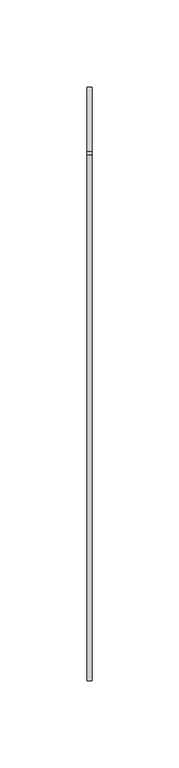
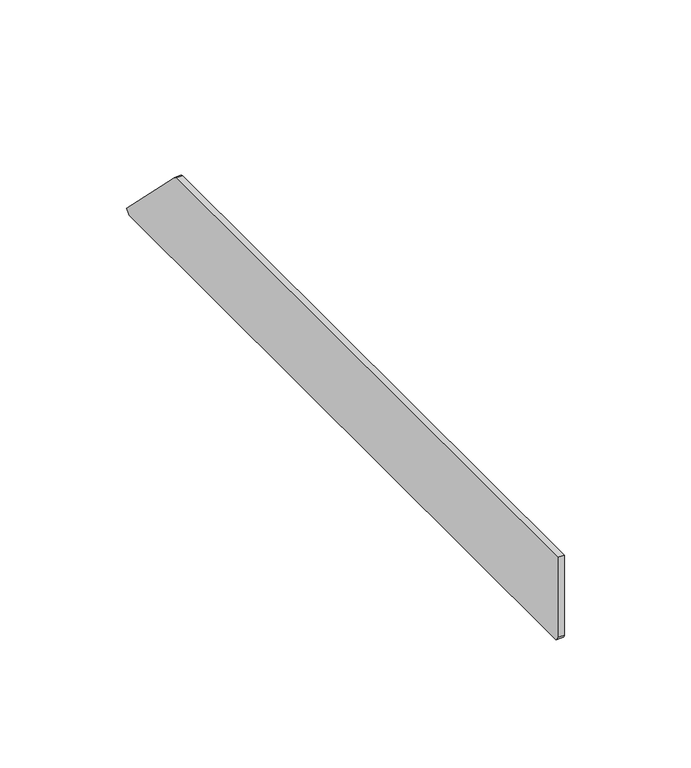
"""IFC4 building model written with IfcOpenShell, lengths in millimetres: cable carrier fitting geometry, Electrical_Installation_Hager_End-Piece : Electrical_Installation_Hager_End-Piece."""

from ifc_helpers import new_model, si_unit, point, frame, frame_2d, origin, place, context, project, spatial, polyline, circle_curve, trimmed, segment, composite_curve, outline, extrude, source, transform, mapped, element, save


def cable_carrier_fitting_706685b8(model_context):
    return source(origin(), model_context, "Body", "SweptSolid", [
        extrude(outline(composite_curve([segment(polyline([(-150.0, -18.0), (-150.0, 20.5), (151.7124549, 20.5)]), True, "CONTINUOUS"), segment(trimmed(circle_curve(frame_2d((150.5004738, 16.6648514)), 4.0220969), [point((151.7124549, 20.5))], [point((153.5142136, 19.3284271))], False, "CARTESIAN"), True, "CONTINUOUS"), segment(polyline([(153.5142136, 19.3284271), (190.7213203, -17.8786797), (188.6, -20.0), (-148.0, -20.0)]), True, "CONTINUOUS"), segment(trimmed(circle_curve(frame_2d((-148.0, -18.0)), 2.0), [point((-148.0, -20.0))], [point((-150.0, -18.0))], False, "CARTESIAN"), True, "CONTINUOUS")], self_intersect=False)), frame((0.0, 0.0, 0.0), z_axis=(1.0, 0.0, 0.0), x_axis=(0.0, 1.0, 0.0)), (0.0, 0.0, 1.0), 3.0),
    ])


if __name__ == "__main__":
    model = new_model("IFC4")
    model_context = context("Model", 3, world=origin())
    ifc_project = project(units=[si_unit("LENGTHUNIT", "METRE", prefix="MILLI")], contexts=[model_context])
    site = spatial("IfcSite", under=ifc_project)
    building = spatial("IfcBuilding", under=site)
    placement = place(None, origin())
    cable_carrier_fitting_shape = cable_carrier_fitting_706685b8(model_context)
    element("IfcCableCarrierFitting", 1, ObjectType="Electrical_Installation_Hager_End-Piece : Electrical_Installation_Hager_End-Piece", at=placement, inside=building, context=model_context, shape_type="MappedRepresentation", body=[
        mapped(cable_carrier_fitting_shape, transform((0.0, 0.0, 0.0), x_axis=(1.0, 0.0, 0.0), y_axis=(0.0, 1.0, 0.0), z_axis=(0.0, 0.0, 1.0))),
    ])
    save(model, "model.ifc")
